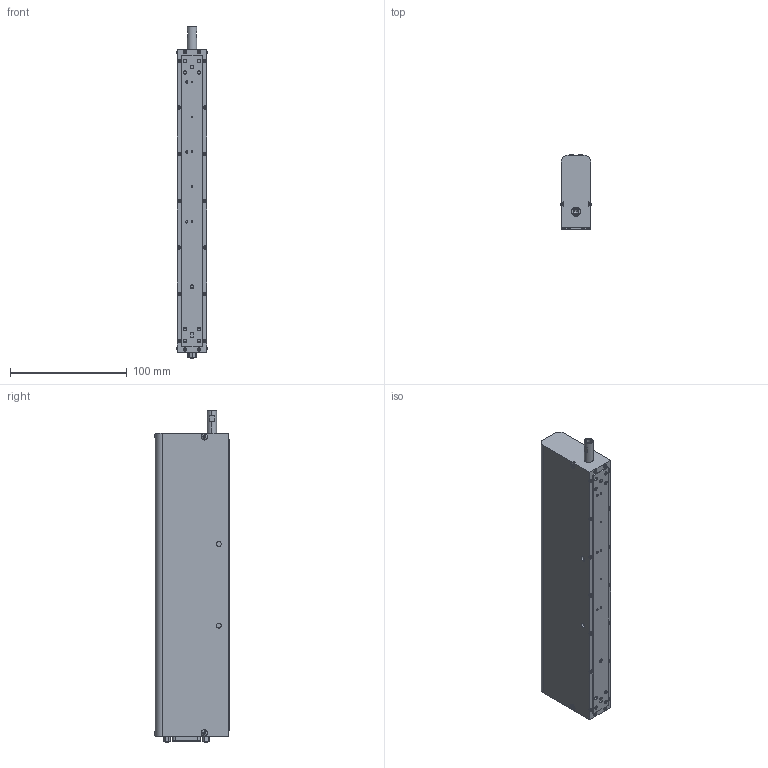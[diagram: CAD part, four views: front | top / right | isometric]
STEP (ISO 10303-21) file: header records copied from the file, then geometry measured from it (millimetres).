
FILE_DESCRIPTION (( 'STEP AP203' ), '1' );
FILE_NAME ('LDL25C-100-YY-6F.STEP', '2021-08-31T16:17:07', ( '' ), ( '' ), 'SwSTEP 2.0', 'SolidWorks 2020', '' );
FILE_SCHEMA (( 'CONFIG_CONTROL_DESIGN' ));
Products named in the file (1): LDL25C-100-YY-6F
Bounding box: 25.86 x 64.1 x 284.76 mm (x, y, z)
Volume: 414202.3 mm3; surface area: 52078.2 mm2
Topology: 1 solids, 39 shells, 2365 faces, 6520 edges, 4255 vertices
Faces by surface type: plane 685, cone 561, bspline 426, cylinder 409, torus 276, sphere 8
Entity records: 94500 total; most frequent: CARTESIAN_POINT 39347, ORIENTED_EDGE 12980, DIRECTION 9485, EDGE_CURVE 6490, VERTEX_POINT 4255, AXIS2_PLACEMENT_3D 3779, B_SPLINE_CURVE_WITH_KNOTS 2656, EDGE_LOOP 2573
